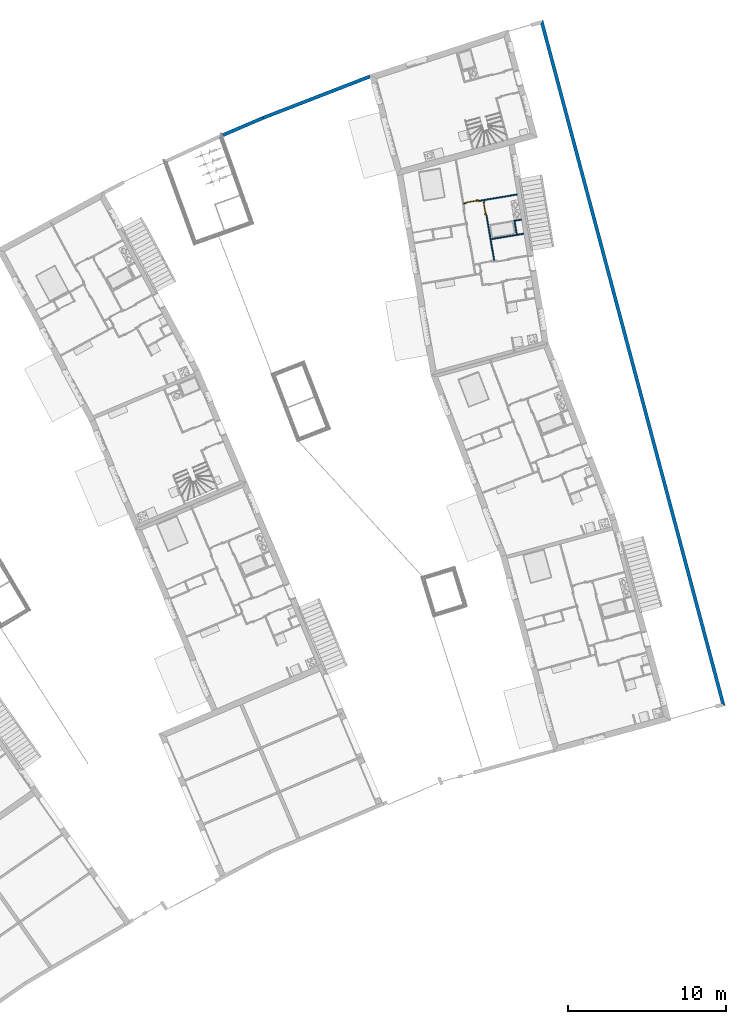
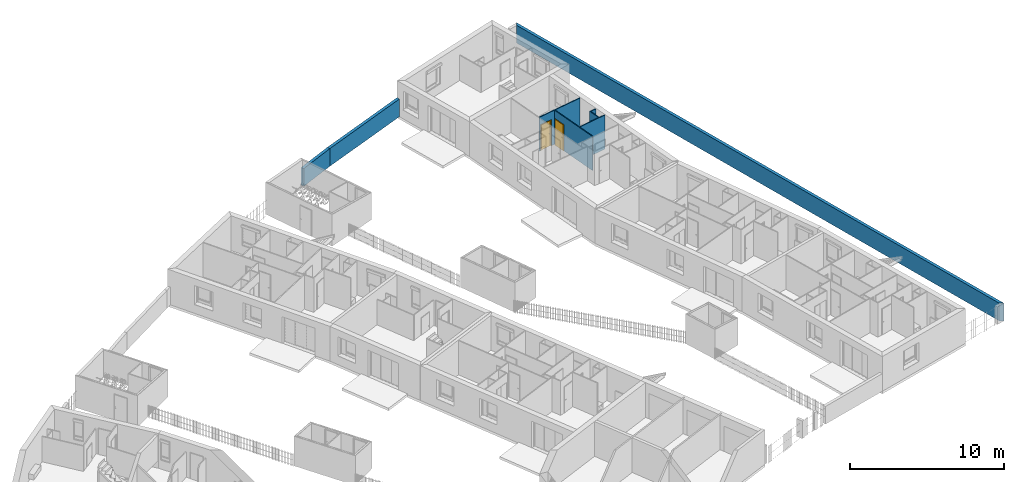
# One storey, part 92 of 195: 8 walls, 2 doors, 2 openings.
"""IFC2X3 building model written with IfcOpenShell, lengths in metres."""

from ifc_helpers import new_model, entity, si_unit, converted_unit, derived_unit, money_unit, direction, frame, origin_with_axes, origin_2d_with_axis, place, context, subcontext, project, spatial, polyline, rectangle, outline, extrude, faceted_brep, source, transform, mapped, material, layer, layer_set, layer_usage, type_object, element, fill, save


model = new_model("IFC2X3")

# Units and contexts
model_context = context("Model", 3, precision=1e-05, world=origin_with_axes(), true_north=direction((0.0, 1.0)))
body_context = subcontext(model_context, "Body", "Model", "MODEL_VIEW")
ifc_project = project(units=[si_unit("LENGTHUNIT", "METRE"), si_unit("AREAUNIT", "SQUARE_METRE"), si_unit("VOLUMEUNIT", "CUBIC_METRE"), converted_unit("PLANEANGLEUNIT", "DEGREE", entity("IfcPlaneAngleMeasure", 0.0174532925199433), si_unit("PLANEANGLEUNIT", "RADIAN"), dimensions=[0, 0, 0, 0, 0, 0, 0]), money_unit("CHF"), converted_unit("TIMEUNIT", "Year", entity("IfcTimeMeasure", 31557600.0), si_unit("TIMEUNIT", "SECOND"), dimensions=[0, 0, 1, 0, 0, 0, 0]), si_unit("MASSUNIT", "GRAM", prefix="KILO"), si_unit("THERMODYNAMICTEMPERATUREUNIT", "DEGREE_CELSIUS"), si_unit("LUMINOUSINTENSITYUNIT", "LUMEN"), si_unit("ENERGYUNIT", "JOULE", prefix="MEGA"), derived_unit("THERMALCONDUCTANCEUNIT", [(si_unit("POWERUNIT", "WATT"), 1), (si_unit("LENGTHUNIT", "METRE"), -1), (si_unit("THERMODYNAMICTEMPERATUREUNIT", "KELVIN"), -1)]), derived_unit("SPECIFICHEATCAPACITYUNIT", [(si_unit("ENERGYUNIT", "JOULE"), 1), (si_unit("MASSUNIT", "GRAM", prefix="KILO"), -1), (si_unit("THERMODYNAMICTEMPERATUREUNIT", "KELVIN"), -1)]), derived_unit("MASSDENSITYUNIT", [(si_unit("MASSUNIT", "GRAM", prefix="KILO"), 1), (si_unit("VOLUMEUNIT", "CUBIC_METRE"), -1)])], contexts=[model_context])

# Site, building, storey
site_placement = place(None, origin_with_axes())
site = spatial("IfcSite", under=ifc_project, at=site_placement, Name="Site", CompositionType="ELEMENT")
building_placement = place(site_placement, origin_with_axes())
building = spatial("IfcBuilding", under=site, at=building_placement, Name="Bâtiment", CompositionType="ELEMENT")
storey_placement = place(building_placement, origin_with_axes())
storey = spatial("IfcBuildingStorey", under=building, at=storey_placement, Name="rdc", CompositionType="ELEMENT", Elevation=0.0)

# Wall, opening, door
ifc_material_1 = material(Name="Hachure solide 268963992")
ifc_layer_1 = layer(ifc_material_1, 0.07, ventilated="UNKNOWN")
ifc_layer_set_1 = layer_set([ifc_layer_1], Name="Cloison 70 0826278243")
ifc_layer_usage_1 = layer_usage(ifc_layer_set_1, "AXIS2", "NEGATIVE", 0.0)
wall_type_1 = type_object("IfcWallType", Name="Cloison 70 0826278243 70", PredefinedType="NOTDEFINED")
wall_1_placement = place(storey_placement, frame((9587.806241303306, -1024.182030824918, 57.7), z_axis=(0.0, 0.0, 1.0), x_axis=(-0.9858290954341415, -0.1677527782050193, 0.0)))
wall_1 = element("IfcWallStandardCase", 1, at=wall_1_placement, inside=storey, type_object=wall_type_1, material=ifc_layer_usage_1, Name="Mur-149", context=body_context, shape_type="SweptSolid", body=[
    extrude(outline(polyline([(0.3800000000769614, -0.07000000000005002), (3.798769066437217, -0.06999999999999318), (3.79876906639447, 0.0), (0.3800000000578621, 0.0), (0.3800000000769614, -0.07000000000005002)])), origin_with_axes(), (0.0, 0.0, 1.0), 2.7),
])
opening_1_placement = place(wall_1_placement, frame((3.258124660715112, 0.0, 0.0), z_axis=(0.0, 0.0, 1.0), x_axis=(1.0, 0.0, 0.0)))
opening_1 = element("IfcOpeningElement", 2, at=opening_1_placement, cuts=wall_1, Name="Por-303", context=body_context, shape_type="SweptSolid", body=[
    extrude(rectangle(XDim=0.9099999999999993, YDim=2.079999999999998, at=origin_2d_with_axis()), frame((0.0, 0.06999999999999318, 1.039999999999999), z_axis=(0.0, 1.0, 0.0), x_axis=(1.0, 0.0, 0.0)), (0.0, 0.0, -1.0), 0.14),
])
door_style = type_object("IfcDoorStyle", Name="Porte_1v", ConstructionType="NOTDEFINED", OperationType="NOTDEFINED", ParameterTakesPrecedence=False, Sizeable=False)
shared_shape_1 = source(origin_with_axes(), body_context, "Body", "Brep", [
    faceted_brep([(-0.455, 0.0, 0.0), (-0.455, 0.0, 2.08), (0.455, 0.0, 2.08), (0.455, 0.0, 0.0), (0.415, 0.0, 0.0), (0.415, 0.0, 2.04), (-0.415, 0.0, 2.04), (-0.415, 0.0, 0.0), (-0.455, -0.07, 0.0), (-0.455, -0.07, 2.08), (0.455, -0.07, 2.08), (0.455, -0.07, 0.0), (0.4, -0.07, 0.0), (0.4, -0.015, 0.0), (0.415, -0.015, 0.0), (0.415, -0.015, 2.04), (-0.415, -0.015, 2.04), (-0.415, -0.015, 0.0), (-0.4, -0.015, 0.0), (-0.4, -0.07, 0.0), (-0.4, -0.07, 2.025), (0.4, -0.07, 2.025), (0.4, -0.015, 2.025), (-0.4, -0.015, 2.025)], [[[0, 1, 2, 3, 4, 5, 6, 7]], [[8, 9, 1, 0]], [[9, 10, 2, 1]], [[10, 11, 3, 2]], [[3, 11, 12, 13, 14, 4]], [[5, 4, 14, 15]], [[6, 5, 15, 16]], [[7, 6, 16, 17]], [[0, 7, 17, 18, 19, 8]], [[19, 20, 21, 12, 11, 10, 9, 8]], [[22, 13, 12, 21]], [[17, 16, 15, 14, 13, 22, 23, 18]], [[18, 23, 20, 19]], [[23, 22, 21, 20]]]),
    faceted_brep([(0.35, -0.015, 0.9), (0.35, -0.015, 1.1), (0.39, -0.015, 1.1), (0.39, -0.015, 0.9), (0.35, -0.025, 0.9), (0.35, -0.025, 1.1), (0.39, -0.025, 1.1), (0.39, -0.025, 0.9)], [[[0, 1, 2, 3]], [[0, 4, 5, 1]], [[1, 5, 6, 2]], [[2, 6, 7, 3]], [[3, 7, 4, 0]], [[7, 6, 5, 4]]]),
    faceted_brep([(0.28, -0.025, 1.0), (0.28, -0.025, 1.02), (0.38, -0.025, 1.02), (0.38, -0.025, 1.0), (0.28, -0.045, 1.0), (0.28, -0.045, 1.02), (0.38, -0.045, 1.02), (0.38, -0.045, 1.0)], [[[0, 1, 2, 3]], [[0, 4, 5, 1]], [[1, 5, 6, 2]], [[2, 6, 7, 3]], [[3, 7, 4, 0]], [[7, 6, 5, 4]]]),
    faceted_brep([(0.35, 0.035, 0.9), (0.35, 0.035, 1.1), (0.39, 0.035, 1.1), (0.39, 0.035, 0.9), (0.35, 0.025, 0.9), (0.35, 0.025, 1.1), (0.39, 0.025, 1.1), (0.39, 0.025, 0.9)], [[[0, 1, 2, 3]], [[0, 4, 5, 1]], [[1, 5, 6, 2]], [[2, 6, 7, 3]], [[3, 7, 4, 0]], [[7, 6, 5, 4]]]),
    faceted_brep([(0.28, 0.05500000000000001, 1.0), (0.28, 0.05500000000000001, 1.02), (0.38, 0.05500000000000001, 1.02), (0.38, 0.05500000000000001, 1.0), (0.28, 0.035, 1.0), (0.28, 0.035, 1.02), (0.38, 0.035, 1.02), (0.38, 0.035, 1.0)], [[[0, 1, 2, 3]], [[0, 4, 5, 1]], [[1, 5, 6, 2]], [[2, 6, 7, 3]], [[3, 7, 4, 0]], [[7, 6, 5, 4]]]),
    faceted_brep([(0.415, 0.025, 0.0), (0.415, -0.015, 0.0), (-0.415, -0.015, 0.0), (-0.415, 0.025, 0.0), (0.415, 0.025, 2.04), (0.415, -0.015, 2.04), (-0.415, -0.015, 2.04), (-0.415, 0.025, 2.04)], [[[0, 1, 2, 3]], [[4, 5, 1, 0]], [[1, 5, 6, 2]], [[3, 2, 6, 7]], [[0, 3, 7, 4]], [[7, 6, 5, 4]]]),
])
door_1_placement = place(opening_1_placement, frame((0.4149999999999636, 0.0, 0.0), z_axis=(0.0, 0.0, 1.0), x_axis=(-1.0, 0.0, 0.0)))
door_1 = element("IfcDoor", 3, at=door_1_placement, inside=storey, type_object=door_style, Name="Por-303", OverallHeight=2.04, OverallWidth=0.83, context=body_context, shape_type="MappedRepresentation", body=[
    mapped(shared_shape_1, transform((0.4149999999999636, 0.06999999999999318, 0.0))),
])
fill(opening_1, door_1)

# Walls
ifc_layer_usage_2 = layer_usage(ifc_layer_set_1, "AXIS2", "NEGATIVE", 0.0)
wall_2_placement = place(storey_placement, frame((9587.290329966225, -1025.901304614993, 57.7), z_axis=(0.0, 0.0, 1.0), x_axis=(0.1677527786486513, -0.9858290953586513, 0.0)))
element("IfcWallStandardCase", 4, at=wall_2_placement, inside=storey, type_object=wall_type_1, material=ifc_layer_usage_2, Name="Mur-149", context=body_context, shape_type="SweptSolid", body=[
    extrude(outline(polyline([(-0.07000000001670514, -0.06999999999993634), (0.8299999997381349, -0.07000000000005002), (0.8299999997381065, 0.0), (0.0, 0.0), (-0.07000000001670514, -0.06999999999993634)])), origin_with_axes(), (0.0, 0.0, 1.0), 2.7),
])
ifc_layer_usage_3 = layer_usage(ifc_layer_set_1, "AXIS2", "NEGATIVE", 0.0)
wall_3_placement = place(storey_placement, frame((9588.227026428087, -1026.654849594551, 57.7), z_axis=(0.0, 0.0, 1.0), x_axis=(-0.9858290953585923, -0.1677527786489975, 0.0)))
element("IfcWallStandardCase", 5, at=wall_3_placement, inside=storey, type_object=wall_type_1, material=ifc_layer_usage_3, Name="Mur-149", context=body_context, shape_type="SweptSolid", body=[
    extrude(outline(polyline([(0.3799999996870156, -0.06999999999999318), (2.478769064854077, -0.0700000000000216), (2.478769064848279, 0.0), (0.3799999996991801, 0.0), (0.3799999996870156, -0.06999999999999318)])), origin_with_axes(), (0.0, 0.0, 1.0), 2.7),
])
ifc_layer_usage_4 = layer_usage(ifc_layer_set_1, "AXIS2", "NEGATIVE", 0.0)
wall_4_placement = place(storey_placement, frame((9588.076048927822, -1025.767603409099, 57.7), z_axis=(0.0, 0.0, 1.0), x_axis=(-0.9858290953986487, -0.1677527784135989, 0.0)))
element("IfcWallStandardCase", 6, at=wall_4_placement, inside=storey, type_object=wall_type_1, material=ifc_layer_usage_4, Name="Mur-149", context=body_context, shape_type="SweptSolid", body=[
    extrude(outline(polyline([(0.3799999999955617, -0.06999999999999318), (0.8670133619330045, -0.06999999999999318), (0.7970133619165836, 0.0), (0.3799999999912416, 0.0), (0.3799999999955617, -0.06999999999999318)])), origin_with_axes(), (0.0, 0.0, 1.0), 2.7),
])

# Wall, opening, door
ifc_layer_usage_5 = layer_usage(ifc_layer_set_1, "AXIS2", "NEGATIVE", 0.0)
wall_5_placement = place(storey_placement, frame((9585.362598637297, -1024.597851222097, 57.7), z_axis=(0.0, 0.0, 1.0), x_axis=(0.1677527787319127, -0.9858290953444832, 0.0)))
wall_5 = element("IfcWallStandardCase", 7, at=wall_5_placement, inside=storey, type_object=wall_type_1, material=ifc_layer_usage_5, Name="Mur-149", context=body_context, shape_type="SweptSolid", body=[
    extrude(outline(polyline([(1.118394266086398e-10, -0.07000000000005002), (3.85008979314, -0.07000000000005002), (3.850089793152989, 0.0), (1.492708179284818e-10, 0.0), (1.118394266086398e-10, -0.07000000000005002)])), origin_with_axes(), (0.0, 0.0, 1.0), 2.7),
])
opening_2_placement = place(wall_5_placement, frame((0.5097203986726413, 0.0, 0.0), z_axis=(0.0, 0.0, 1.0), x_axis=(1.0, 0.0, 0.0)))
opening_2 = element("IfcOpeningElement", 8, at=opening_2_placement, cuts=wall_5, Name="Por-299", context=body_context, shape_type="SweptSolid", body=[
    extrude(rectangle(XDim=0.9099999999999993, YDim=2.079999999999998, at=origin_2d_with_axis()), frame((0.0, 0.06999999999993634, 1.039999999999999), z_axis=(0.0, -1.0, 0.0), x_axis=(-1.0, 0.0, 0.0)), (0.0, 0.0, 1.0), 0.14),
])
shared_shape_2 = source(origin_with_axes(), body_context, "Body", "Brep", [
    faceted_brep([(0.455, 0.0, 0.0), (0.415, 0.0, 0.0), (0.415, 0.0, 2.04), (-0.415, 0.0, 2.04), (-0.415, 0.0, 0.0), (-0.455, 0.0, 0.0), (-0.455, 0.0, 2.08), (0.455, 0.0, 2.08), (0.455, -0.07, 0.0), (0.4, -0.07, 0.0), (0.4, -0.015, 0.0), (0.415, -0.015, 0.0), (0.415, -0.015, 2.04), (-0.415, -0.015, 2.04), (-0.415, -0.015, 0.0), (-0.4, -0.015, 0.0), (-0.4, -0.07, 0.0), (-0.455, -0.07, 0.0), (-0.455, -0.07, 2.08), (0.455, -0.07, 2.08), (-0.4, -0.07, 2.025), (0.4, -0.07, 2.025), (0.4, -0.015, 2.025), (-0.4, -0.015, 2.025)], [[[0, 1, 2, 3, 4, 5, 6, 7]], [[0, 8, 9, 10, 11, 1]], [[1, 11, 12, 2]], [[2, 12, 13, 3]], [[3, 13, 14, 4]], [[5, 4, 14, 15, 16, 17]], [[18, 6, 5, 17]], [[19, 7, 6, 18]], [[8, 0, 7, 19]], [[9, 8, 19, 18, 17, 16, 20, 21]], [[10, 9, 21, 22]], [[11, 10, 22, 23, 15, 14, 13, 12]], [[23, 20, 16, 15]], [[22, 21, 20, 23]]]),
    faceted_brep([(-0.35, -0.015, 0.9), (-0.39, -0.015, 0.9), (-0.39, -0.015, 1.1), (-0.35, -0.015, 1.1), (-0.35, -0.025, 0.9), (-0.39, -0.025, 0.9), (-0.39, -0.025, 1.1), (-0.35, -0.025, 1.1)], [[[0, 1, 2, 3]], [[1, 0, 4, 5]], [[2, 1, 5, 6]], [[3, 2, 6, 7]], [[0, 3, 7, 4]], [[5, 4, 7, 6]]]),
    faceted_brep([(-0.28, -0.025, 1.0), (-0.38, -0.025, 1.0), (-0.38, -0.025, 1.02), (-0.28, -0.025, 1.02), (-0.28, -0.045, 1.0), (-0.38, -0.045, 1.0), (-0.38, -0.045, 1.02), (-0.28, -0.045, 1.02)], [[[0, 1, 2, 3]], [[1, 0, 4, 5]], [[2, 1, 5, 6]], [[3, 2, 6, 7]], [[0, 3, 7, 4]], [[5, 4, 7, 6]]]),
    faceted_brep([(-0.35, 0.035, 0.9), (-0.39, 0.035, 0.9), (-0.39, 0.035, 1.1), (-0.35, 0.035, 1.1), (-0.35, 0.025, 0.9), (-0.39, 0.025, 0.9), (-0.39, 0.025, 1.1), (-0.35, 0.025, 1.1)], [[[0, 1, 2, 3]], [[1, 0, 4, 5]], [[2, 1, 5, 6]], [[3, 2, 6, 7]], [[0, 3, 7, 4]], [[5, 4, 7, 6]]]),
    faceted_brep([(-0.28, 0.05500000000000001, 1.0), (-0.38, 0.05500000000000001, 1.0), (-0.38, 0.05500000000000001, 1.02), (-0.28, 0.05500000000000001, 1.02), (-0.28, 0.035, 1.0), (-0.38, 0.035, 1.0), (-0.38, 0.035, 1.02), (-0.28, 0.035, 1.02)], [[[0, 1, 2, 3]], [[1, 0, 4, 5]], [[2, 1, 5, 6]], [[3, 2, 6, 7]], [[0, 3, 7, 4]], [[5, 4, 7, 6]]]),
    faceted_brep([(-0.415, 0.025, 0.0), (0.415, 0.025, 0.0), (0.415, -0.015, 0.0), (-0.415, -0.015, 0.0), (-0.415, 0.025, 2.04), (0.415, 0.025, 2.04), (0.415, -0.015, 2.04), (-0.415, -0.015, 2.04)], [[[0, 1, 2, 3]], [[0, 4, 5, 1]], [[1, 5, 6, 2]], [[3, 2, 6, 7]], [[4, 0, 3, 7]], [[5, 4, 7, 6]]]),
])
door_2_placement = place(opening_2_placement, frame((0.4150000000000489, 0.0, 0.0), z_axis=(0.0, 0.0, 1.0), x_axis=(-1.0, 0.0, 0.0)))
door_2 = element("IfcDoor", 9, at=door_2_placement, inside=storey, type_object=door_style, Name="Por-299", OverallHeight=2.04, OverallWidth=0.83, context=body_context, shape_type="MappedRepresentation", body=[
    mapped(shared_shape_2, transform((0.414999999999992, 0.06999999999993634, 0.0))),
])
fill(opening_2, door_2)

# Walls
ifc_material_2 = material(Name="Empty Fill 3000033799")
ifc_layer_2 = layer(ifc_material_2, 0.22, ventilated="UNKNOWN")
ifc_layer_set_2 = layer_set([ifc_layer_2], Name="acrotère 22")
ifc_layer_usage_6 = layer_usage(ifc_layer_set_2, "AXIS2", "POSITIVE", 0.0)
wall_type_2 = type_object("IfcWallType", Name="acrotère 22 220", PredefinedType="NOTDEFINED")
wall_6_placement = place(storey_placement, frame((9578.094746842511, -1016.66205963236, 57.7), z_axis=(0.0, 0.0, 1.0), x_axis=(-0.9324319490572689, -0.3613456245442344, 0.0)))
element("IfcWallStandardCase", 10, at=wall_6_placement, inside=storey, type_object=wall_type_2, material=ifc_layer_usage_6, Name="Mur-108", context=body_context, shape_type="SweptSolid", body=[
    extrude(outline(polyline([(0.0, 0.0), (7.225610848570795, 0.0), (7.221639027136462, 0.2200000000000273), (0.02293079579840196, 0.2200000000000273), (0.0, 0.0)])), origin_with_axes(), (0.0, 0.0, 1.0), 1.4),
])
ifc_layer_usage_7 = layer_usage(ifc_layer_set_2, "AXIS2", "NEGATIVE", 0.0)
wall_7_placement = place(storey_placement, frame((9589.05620769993, -1013.20251203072, 57.7), z_axis=(0.0, 0.0, 1.0), x_axis=(0.2569490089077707, -0.9664249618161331, 0.0)))
element("IfcWallStandardCase", 11, at=wall_7_placement, inside=storey, type_object=wall_type_2, material=ifc_layer_usage_7, Name="Mur-109", context=body_context, shape_type="SweptSolid", body=[
    extrude(outline(polyline([(0.221691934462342, -0.2200000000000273), (44.55943816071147, -0.2200000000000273), (44.77775913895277, 0.0), (0.0, 0.0), (0.221691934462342, -0.2200000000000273)])), origin_with_axes(), (0.0, 0.0, 1.0), 1.4),
])
ifc_layer_usage_8 = layer_usage(ifc_layer_set_2, "AXIS2", "POSITIVE", 0.0)
wall_8_placement = place(storey_placement, frame((9571.357356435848, -1019.273002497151, 57.7), z_axis=(0.0, 0.0, 1.0), x_axis=(-0.918781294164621, -0.3947669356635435, 0.0)))
element("IfcWallStandardCase", 12, at=wall_8_placement, inside=storey, type_object=wall_type_2, material=ifc_layer_usage_8, Name="Mur-108", context=body_context, shape_type="SweptSolid", body=[
    extrude(outline(polyline([(0.0, 0.0), (2.821539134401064, 0.0), (2.818838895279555, 0.2200000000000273), (0.003971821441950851, 0.2199999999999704), (0.0, 0.0)])), origin_with_axes(), (0.0, 0.0, 1.0), 1.4),
])

save(model, "model.ifc")
